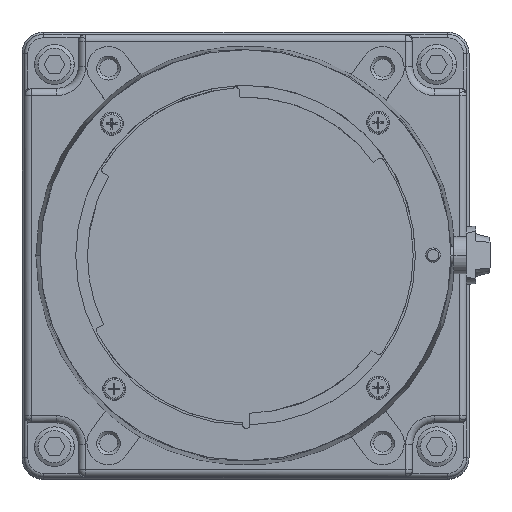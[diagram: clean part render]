
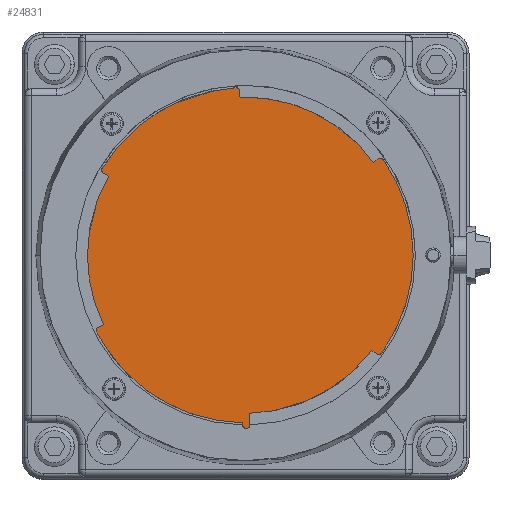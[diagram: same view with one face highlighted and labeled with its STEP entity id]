
A CAD part, top view. The second image highlights one B-rep face of the part: STEP entity #24831.
In plain terms, the highlighted planar face has unit normal (0, 0, 1).
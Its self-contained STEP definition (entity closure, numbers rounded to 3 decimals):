
#4667=CARTESIAN_POINT('',(-26.5,26.5,15.));
#4668=DIRECTION('',(0.,0.,1.));
#4669=DIRECTION('',(0.,1.,0.));
#4670=AXIS2_PLACEMENT_3D('',#4667,#4668,#4669);
#4672=CARTESIAN_POINT('',(26.5,26.5,15.));
#4673=DIRECTION('',(0.,0.,1.));
#4674=DIRECTION('',(1.,0.,0.));
#4675=AXIS2_PLACEMENT_3D('',#4672,#4673,#4674);
#4677=DIRECTION('',(0.,1.,0.));
#4678=VECTOR('',#4677,53.);
#4679=CARTESIAN_POINT('',(29.5,-26.5,15.));
#4680=LINE('',#4679,#4678);
#4681=CARTESIAN_POINT('',(26.5,-26.5,15.));
#4682=DIRECTION('',(0.,0.,1.));
#4683=DIRECTION('',(0.,-1.,0.));
#4684=AXIS2_PLACEMENT_3D('',#4681,#4682,#4683);
#4686=CARTESIAN_POINT('',(-26.5,-26.5,15.));
#4687=DIRECTION('',(0.,0.,1.));
#4688=DIRECTION('',(-1.,0.,0.));
#4689=AXIS2_PLACEMENT_3D('',#4686,#4687,#4688);
#4691=CARTESIAN_POINT('',(12.,-26.,15.));
#4692=DIRECTION('',(0.,0.,-1.));
#4693=DIRECTION('',(-1.,0.,0.));
#4694=AXIS2_PLACEMENT_3D('',#4691,#4692,#4693);
#4696=CARTESIAN_POINT('',(12.,-26.,15.));
#4697=DIRECTION('',(0.,0.,-1.));
#4698=DIRECTION('',(1.,0.,0.));
#4699=AXIS2_PLACEMENT_3D('',#4696,#4697,#4698);
#4701=CARTESIAN_POINT('',(-26.5,26.5,15.));
#4702=DIRECTION('',(0.,0.,-1.));
#4703=DIRECTION('',(1.,0.,0.));
#4704=AXIS2_PLACEMENT_3D('',#4701,#4702,#4703);
#4706=CARTESIAN_POINT('',(-26.5,26.5,15.));
#4707=DIRECTION('',(0.,0.,-1.));
#4708=DIRECTION('',(-1.,0.,0.));
#4709=AXIS2_PLACEMENT_3D('',#4706,#4707,#4708);
#4711=CARTESIAN_POINT('',(26.5,26.5,15.));
#4712=DIRECTION('',(0.,0.,-1.));
#4713=DIRECTION('',(1.,0.,0.));
#4714=AXIS2_PLACEMENT_3D('',#4711,#4712,#4713);
#4716=CARTESIAN_POINT('',(26.5,26.5,15.));
#4717=DIRECTION('',(0.,0.,-1.));
#4718=DIRECTION('',(-1.,0.,0.));
#4719=AXIS2_PLACEMENT_3D('',#4716,#4717,#4718);
#4721=CARTESIAN_POINT('',(-26.5,-26.5,15.));
#4722=DIRECTION('',(0.,0.,-1.));
#4723=DIRECTION('',(1.,0.,0.));
#4724=AXIS2_PLACEMENT_3D('',#4721,#4722,#4723);
#4726=CARTESIAN_POINT('',(-26.5,-26.5,15.));
#4727=DIRECTION('',(0.,0.,-1.));
#4728=DIRECTION('',(-1.,0.,0.));
#4729=AXIS2_PLACEMENT_3D('',#4726,#4727,#4728);
#4731=CARTESIAN_POINT('',(26.5,-26.5,15.));
#4732=DIRECTION('',(0.,0.,-1.));
#4733=DIRECTION('',(1.,0.,0.));
#4734=AXIS2_PLACEMENT_3D('',#4731,#4732,#4733);
#4736=CARTESIAN_POINT('',(26.5,-26.5,15.));
#4737=DIRECTION('',(0.,0.,-1.));
#4738=DIRECTION('',(-1.,0.,0.));
#4739=AXIS2_PLACEMENT_3D('',#4736,#4737,#4738);
#4741=CARTESIAN_POINT('',(12.,26.,15.));
#4742=DIRECTION('',(0.,0.,-1.));
#4743=DIRECTION('',(-1.,0.,0.));
#4744=AXIS2_PLACEMENT_3D('',#4741,#4742,#4743);
#4746=CARTESIAN_POINT('',(12.,26.,15.));
#4747=DIRECTION('',(0.,0.,-1.));
#4748=DIRECTION('',(1.,0.,0.));
#4749=AXIS2_PLACEMENT_3D('',#4746,#4747,#4748);
#4759=DIRECTION('',(0.,-1.,0.));
#4760=VECTOR('',#4759,53.);
#4761=CARTESIAN_POINT('',(-29.5,26.5,15.));
#4762=LINE('',#4761,#4760);
#4775=DIRECTION('',(1.,0.,0.));
#4776=VECTOR('',#4775,53.);
#4777=CARTESIAN_POINT('',(-26.5,-29.5,15.));
#4778=LINE('',#4777,#4776);
#4807=DIRECTION('',(-1.,0.,0.));
#4808=VECTOR('',#4807,53.);
#4809=CARTESIAN_POINT('',(26.5,29.5,15.));
#4810=LINE('',#4809,#4808);
#12669=CARTESIAN_POINT('',(29.5,26.5,15.));
#12671=VERTEX_POINT('',#12669);
#12673=CARTESIAN_POINT('',(29.5,-26.5,15.));
#12674=VERTEX_POINT('',#12673);
#12677=CARTESIAN_POINT('',(26.5,29.5,15.));
#12678=VERTEX_POINT('',#12677);
#12681=CARTESIAN_POINT('',(-26.5,29.5,15.));
#12682=CARTESIAN_POINT('',(-29.5,26.5,15.));
#12683=VERTEX_POINT('',#12681);
#12684=VERTEX_POINT('',#12682);
#12685=CARTESIAN_POINT('',(26.5,-29.5,15.));
#12686=VERTEX_POINT('',#12685);
#12687=CARTESIAN_POINT('',(-26.5,-29.5,15.));
#12688=VERTEX_POINT('',#12687);
#12689=CARTESIAN_POINT('',(-29.5,-26.5,15.));
#12690=VERTEX_POINT('',#12689);
#12691=CARTESIAN_POINT('',(9.5,-26.,15.));
#12692=CARTESIAN_POINT('',(14.5,-26.,15.));
#12693=VERTEX_POINT('',#12691);
#12694=VERTEX_POINT('',#12692);
#12695=CARTESIAN_POINT('',(-24.85,26.5,15.));
#12696=CARTESIAN_POINT('',(-28.15,26.5,15.));
#12697=VERTEX_POINT('',#12695);
#12698=VERTEX_POINT('',#12696);
#12699=CARTESIAN_POINT('',(28.15,26.5,15.));
#12700=CARTESIAN_POINT('',(24.85,26.5,15.));
#12701=VERTEX_POINT('',#12699);
#12702=VERTEX_POINT('',#12700);
#12703=CARTESIAN_POINT('',(-24.85,-26.5,15.));
#12704=CARTESIAN_POINT('',(-28.15,-26.5,15.));
#12705=VERTEX_POINT('',#12703);
#12706=VERTEX_POINT('',#12704);
#12707=CARTESIAN_POINT('',(28.15,-26.5,15.));
#12708=CARTESIAN_POINT('',(24.85,-26.5,15.));
#12709=VERTEX_POINT('',#12707);
#12710=VERTEX_POINT('',#12708);
#12711=CARTESIAN_POINT('',(9.5,26.,15.));
#12712=CARTESIAN_POINT('',(14.5,26.,15.));
#12713=VERTEX_POINT('',#12711);
#12714=VERTEX_POINT('',#12712);
#24773=CARTESIAN_POINT('',(0.,0.,15.));
#24774=DIRECTION('',(0.,0.,1.));
#24775=DIRECTION('',(1.,0.,0.));
#24776=AXIS2_PLACEMENT_3D('',#24773,#24774,#24775);
#24777=PLANE('',#24776);
#24779=ORIENTED_EDGE('',*,*,#24778,.F.);
#24781=ORIENTED_EDGE('',*,*,#24780,.F.);
#24783=ORIENTED_EDGE('',*,*,#24782,.F.);
#24785=ORIENTED_EDGE('',*,*,#24784,.F.);
#24787=ORIENTED_EDGE('',*,*,#24786,.F.);
#24789=ORIENTED_EDGE('',*,*,#24788,.F.);
#24791=ORIENTED_EDGE('',*,*,#24790,.F.);
#24793=ORIENTED_EDGE('',*,*,#24792,.F.);
#24794=EDGE_LOOP('',(#24779,#24781,#24783,#24785,#24787,#24789,#24791,#24793));
#24795=FACE_OUTER_BOUND('',#24794,.F.);
#24797=ORIENTED_EDGE('',*,*,#24796,.F.);
#24799=ORIENTED_EDGE('',*,*,#24798,.F.);
#24800=EDGE_LOOP('',(#24797,#24799));
#24801=FACE_BOUND('',#24800,.F.);
#24803=ORIENTED_EDGE('',*,*,#24802,.F.);
#24805=ORIENTED_EDGE('',*,*,#24804,.F.);
#24806=EDGE_LOOP('',(#24803,#24805));
#24807=FACE_BOUND('',#24806,.F.);
#24809=ORIENTED_EDGE('',*,*,#24808,.F.);
#24811=ORIENTED_EDGE('',*,*,#24810,.F.);
#24812=EDGE_LOOP('',(#24809,#24811));
#24813=FACE_BOUND('',#24812,.F.);
#24815=ORIENTED_EDGE('',*,*,#24814,.F.);
#24817=ORIENTED_EDGE('',*,*,#24816,.F.);
#24818=EDGE_LOOP('',(#24815,#24817));
#24819=FACE_BOUND('',#24818,.F.);
#24821=ORIENTED_EDGE('',*,*,#24820,.F.);
#24823=ORIENTED_EDGE('',*,*,#24822,.F.);
#24824=EDGE_LOOP('',(#24821,#24823));
#24825=FACE_BOUND('',#24824,.F.);
#24826=ORIENTED_EDGE('',*,*,#24756,.F.);
#24828=ORIENTED_EDGE('',*,*,#24827,.F.);
#24829=EDGE_LOOP('',(#24826,#24828));
#24830=FACE_BOUND('',#24829,.F.);
#4671=CIRCLE('',#4670,3.);
#4676=CIRCLE('',#4675,3.);
#4685=CIRCLE('',#4684,3.);
#4690=CIRCLE('',#4689,3.);
#4695=CIRCLE('',#4694,2.5);
#4700=CIRCLE('',#4699,2.5);
#4705=CIRCLE('',#4704,1.65);
#4710=CIRCLE('',#4709,1.65);
#4715=CIRCLE('',#4714,1.65);
#4720=CIRCLE('',#4719,1.65);
#4725=CIRCLE('',#4724,1.65);
#4730=CIRCLE('',#4729,1.65);
#4735=CIRCLE('',#4734,1.65);
#4740=CIRCLE('',#4739,1.65);
#4745=CIRCLE('',#4744,2.5);
#4750=CIRCLE('',#4749,2.5);
#24756=EDGE_CURVE('',#12713,#12714,#4745,.T.);
#24778=EDGE_CURVE('',#12683,#12684,#4671,.T.);
#24780=EDGE_CURVE('',#12678,#12683,#4810,.T.);
#24782=EDGE_CURVE('',#12671,#12678,#4676,.T.);
#24784=EDGE_CURVE('',#12674,#12671,#4680,.T.);
#24786=EDGE_CURVE('',#12686,#12674,#4685,.T.);
#24788=EDGE_CURVE('',#12688,#12686,#4778,.T.);
#24790=EDGE_CURVE('',#12690,#12688,#4690,.T.);
#24792=EDGE_CURVE('',#12684,#12690,#4762,.T.);
#24796=EDGE_CURVE('',#12693,#12694,#4695,.T.);
#24798=EDGE_CURVE('',#12694,#12693,#4700,.T.);
#24802=EDGE_CURVE('',#12697,#12698,#4705,.T.);
#24804=EDGE_CURVE('',#12698,#12697,#4710,.T.);
#24808=EDGE_CURVE('',#12701,#12702,#4715,.T.);
#24810=EDGE_CURVE('',#12702,#12701,#4720,.T.);
#24814=EDGE_CURVE('',#12705,#12706,#4725,.T.);
#24816=EDGE_CURVE('',#12706,#12705,#4730,.T.);
#24820=EDGE_CURVE('',#12709,#12710,#4735,.T.);
#24822=EDGE_CURVE('',#12710,#12709,#4740,.T.);
#24827=EDGE_CURVE('',#12714,#12713,#4750,.T.);
#24831=ADVANCED_FACE('',(#24795,#24801,#24807,#24813,#24819,#24825,#24830),
#24777,.T.);
